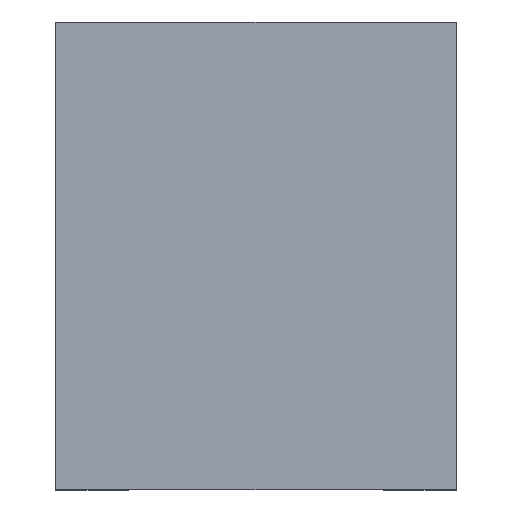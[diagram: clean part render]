
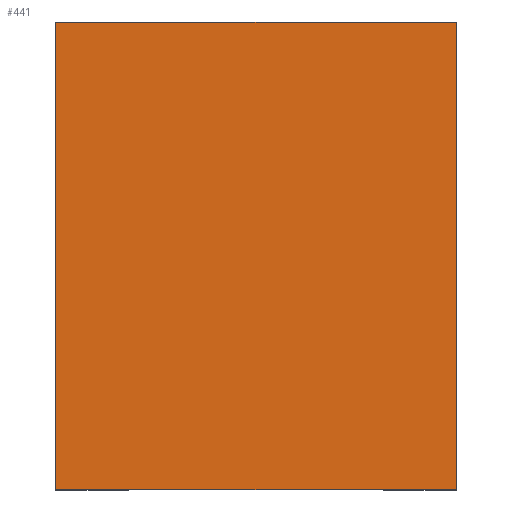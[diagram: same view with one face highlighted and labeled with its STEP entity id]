
A CAD part, top view. The second image highlights one B-rep face of the part: STEP entity #441.
In plain terms, the highlighted planar face has unit normal (0, 0, 1).
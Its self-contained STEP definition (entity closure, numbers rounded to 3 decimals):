
#18 = AXIS2_PLACEMENT_3D ( 'NONE', #899, #987, #442 ) ;
#50 = LINE ( 'NONE', #55, #1411 ) ;
#55 = CARTESIAN_POINT ( 'NONE',  ( -33., 38.5, 44. ) ) ;
#58 = ORIENTED_EDGE ( 'NONE', *, *, #1421, .T. ) ;
#62 = ORIENTED_EDGE ( 'NONE', *, *, #293, .T. ) ;
#99 = LINE ( 'NONE', #179, #759 ) ;
#120 = VERTEX_POINT ( 'NONE', #1253 ) ;
#179 = CARTESIAN_POINT ( 'NONE',  ( -33., 38.5, 44. ) ) ;
#196 = FACE_OUTER_BOUND ( 'NONE', #554, .T. ) ;
#208 = VERTEX_POINT ( 'NONE', #688 ) ;
#265 = VERTEX_POINT ( 'NONE', #955 ) ;
#290 = LINE ( 'NONE', #360, #1150 ) ;
#293 = EDGE_CURVE ( 'NONE', #120, #265, #99, .T. ) ;
#360 = CARTESIAN_POINT ( 'NONE',  ( -33., -38.5, 44. ) ) ;
#397 = EDGE_CURVE ( 'NONE', #828, #120, #605, .T. ) ;
#433 = ORIENTED_EDGE ( 'NONE', *, *, #397, .T. ) ;
#441 = ADVANCED_FACE ( 'NONE', ( #196 ), #1215, .T. ) ;
#442 = DIRECTION ( 'NONE',  ( 1., 0., 0. ) ) ;
#457 = ORIENTED_EDGE ( 'NONE', *, *, #832, .T. ) ;
#478 = DIRECTION ( 'NONE',  ( 1., 0., 0. ) ) ;
#554 = EDGE_LOOP ( 'NONE', ( #433, #62, #58, #457 ) ) ;
#605 = LINE ( 'NONE', #1094, #1031 ) ;
#688 = CARTESIAN_POINT ( 'NONE',  ( -33., -38.5, 44. ) ) ;
#759 = VECTOR ( 'NONE', #1177, 1000. ) ;
#828 = VERTEX_POINT ( 'NONE', #1365 ) ;
#832 = EDGE_CURVE ( 'NONE', #208, #828, #290, .T. ) ;
#840 = DIRECTION ( 'NONE',  ( 0., -1., 0. ) ) ;
#862 = DIRECTION ( 'NONE',  ( 0., 1., 0. ) ) ;
#899 = CARTESIAN_POINT ( 'NONE',  ( 0., 0., 44. ) ) ;
#955 = CARTESIAN_POINT ( 'NONE',  ( -33., 38.5, 44. ) ) ;
#987 = DIRECTION ( 'NONE',  ( 0., 0., 1. ) ) ;
#1031 = VECTOR ( 'NONE', #862, 1000. ) ;
#1094 = CARTESIAN_POINT ( 'NONE',  ( 33., 38.5, 44. ) ) ;
#1150 = VECTOR ( 'NONE', #478, 1000. ) ;
#1177 = DIRECTION ( 'NONE',  ( -1., 0., 0. ) ) ;
#1215 = PLANE ( 'NONE',  #18 ) ;
#1253 = CARTESIAN_POINT ( 'NONE',  ( 33., 38.5, 44. ) ) ;
#1365 = CARTESIAN_POINT ( 'NONE',  ( 33., -38.5, 44. ) ) ;
#1411 = VECTOR ( 'NONE', #840, 1000. ) ;
#1421 = EDGE_CURVE ( 'NONE', #265, #208, #50, .T. ) ;
